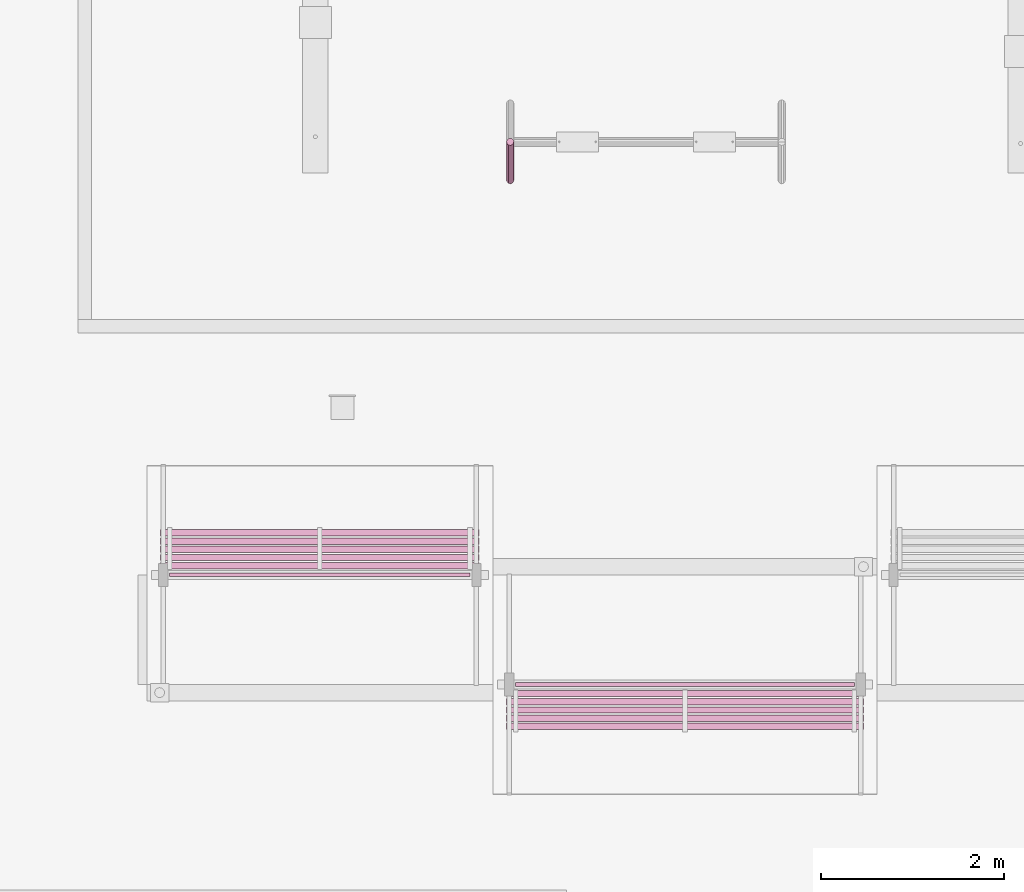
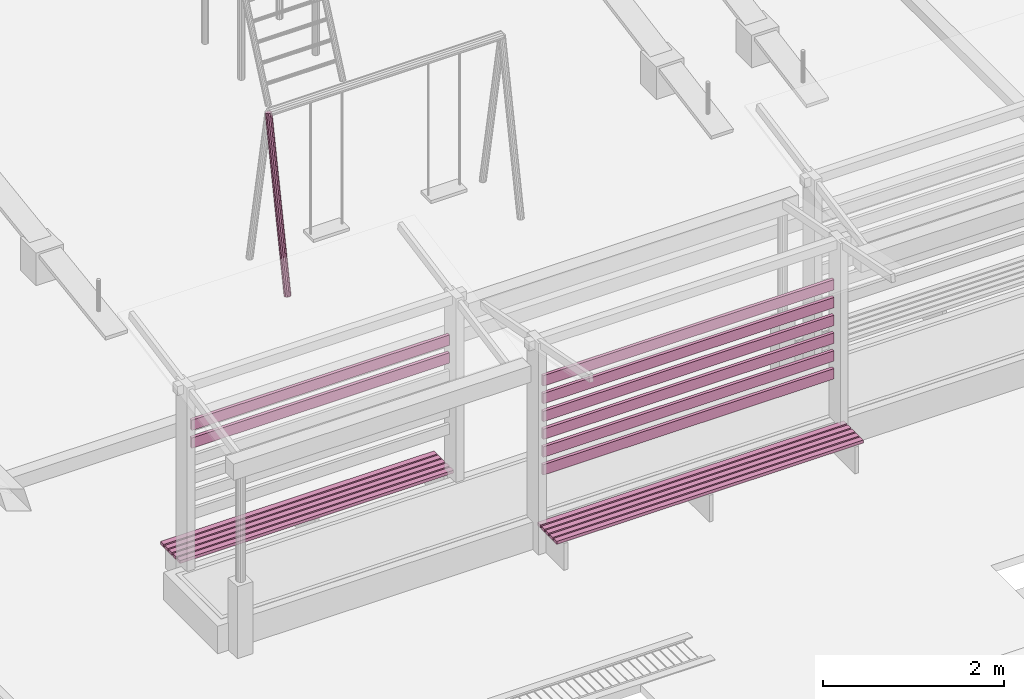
# One storey, part 136 of 151: 19 furnishings.
"""IFC2X3 building model written with IfcOpenShell, lengths in metres."""

from ifc_helpers import new_model, si_unit, origin, origin_with_axes, place, context, subcontext, project, spatial, faceted_brep, element, save


model = new_model("IFC2X3")

# Units and contexts
model_context = context("Model", 3, precision=1e-05, world=origin_with_axes())
body_context = subcontext(model_context, "Body", "Model", "MODEL_VIEW")
ifc_project = project(units=[si_unit("LENGTHUNIT", "METRE"), si_unit("AREAUNIT", "SQUARE_METRE"), si_unit("VOLUMEUNIT", "CUBIC_METRE"), si_unit("PLANEANGLEUNIT", "RADIAN")], contexts=[model_context])

# Site, building, storey
site_placement = place(None, origin_with_axes())
site = spatial("IfcSite", under=ifc_project, at=site_placement, Name="Predio Los Mangos - Morales, San Martín", CompositionType="ELEMENT")
building_placement = place(site_placement, origin())
building = spatial("IfcBuilding", under=site, at=building_placement, Name="Hogar de Refugio Temporal", CompositionType="ELEMENT")
storey_placement = place(building_placement, origin())
storey = spatial("IfcBuildingStorey", under=building, at=storey_placement, Name="NIVEL 1 (NPT +0.00)", CompositionType="ELEMENT", Elevation=0.0)

# Furnishings
furnishing_1_placement = place(storey_placement, origin())
element("IfcFurnishingElement", 1, at=furnishing_1_placement, inside=storey, Name="columpio_pata", ObjectType="Mobiliario exterior / juegos", context=body_context, shape_type="Brep", body=[
    faceted_brep([(32.885, 79.2847, 0.1374), (32.885, 79.7047, 2.3574), (32.865, 79.71, 2.3564), (32.865, 79.29, 0.1364), (32.8504, 79.7243, 2.3537), (32.8504, 79.3043, 0.1337), (32.845, 79.744, 2.35), (32.845, 79.324, 0.13), (32.8504, 79.7636, 2.3463), (32.8504, 79.3436, 0.1263), (32.865, 79.778, 2.3436), (32.865, 79.358, 0.1236), (32.885, 79.7833, 2.3426), (32.885, 79.3633, 0.1226), (32.905, 79.778, 2.3436), (32.905, 79.358, 0.1236), (32.9196, 79.7636, 2.3463), (32.9196, 79.3436, 0.1263), (32.925, 79.744, 2.35), (32.925, 79.324, 0.13), (32.9196, 79.7243, 2.3537), (32.9196, 79.3043, 0.1337), (32.905, 79.71, 2.3564), (32.905, 79.29, 0.1364)], [[[0, 1, 2, 3]], [[3, 2, 4, 5]], [[5, 4, 6, 7]], [[7, 6, 8, 9]], [[9, 8, 10, 11]], [[11, 10, 12, 13]], [[13, 12, 14, 15]], [[15, 14, 16, 17]], [[17, 16, 18, 19]], [[19, 18, 20, 21]], [[2, 1, 22, 20, 18, 16, 14, 12, 10, 8, 6, 4]], [[21, 20, 22, 23]], [[23, 22, 1, 0]], [[0, 3, 5, 7, 9, 11, 13, 15, 17, 19, 21, 23]]]),
])
furnishing_2_placement = place(storey_placement, origin())
element("IfcFurnishingElement", 2, at=furnishing_2_placement, inside=storey, Name="oc01_celosia", ObjectType="Mobiliario exterior / juegos", context=body_context, shape_type="Brep", body=[
    faceted_brep([(36.655, 73.82, 1.05), (36.655, 73.78, 1.05), (32.945, 73.78, 1.05), (32.945, 73.82, 1.05), (36.655, 73.82, 1.19), (32.945, 73.82, 1.19), (32.945, 73.78, 1.19), (36.655, 73.78, 1.19)], [[[0, 1, 2, 3]], [[4, 5, 6, 7]], [[0, 3, 5, 4]], [[3, 2, 6, 5]], [[2, 1, 7, 6]], [[1, 0, 4, 7]]]),
])
furnishing_3_placement = place(storey_placement, origin())
element("IfcFurnishingElement", 3, at=furnishing_3_placement, inside=storey, Name="oc01_celosia", ObjectType="Mobiliario exterior / juegos", context=body_context, shape_type="Brep", body=[
    faceted_brep([(36.655, 73.82, 1.29), (36.655, 73.78, 1.29), (32.945, 73.78, 1.29), (32.945, 73.82, 1.29), (36.655, 73.82, 1.43), (32.945, 73.82, 1.43), (32.945, 73.78, 1.43), (36.655, 73.78, 1.43)], [[[0, 1, 2, 3]], [[4, 5, 6, 7]], [[0, 3, 5, 4]], [[3, 2, 6, 5]], [[2, 1, 7, 6]], [[1, 0, 4, 7]]]),
])
furnishing_4_placement = place(storey_placement, origin())
element("IfcFurnishingElement", 4, at=furnishing_4_placement, inside=storey, Name="oc01_celosia", ObjectType="Mobiliario exterior / juegos", context=body_context, shape_type="Brep", body=[
    faceted_brep([(36.655, 73.82, 1.53), (36.655, 73.78, 1.53), (32.945, 73.78, 1.53), (32.945, 73.82, 1.53), (36.655, 73.82, 1.67), (32.945, 73.82, 1.67), (32.945, 73.78, 1.67), (36.655, 73.78, 1.67)], [[[0, 1, 2, 3]], [[4, 5, 6, 7]], [[0, 3, 5, 4]], [[3, 2, 6, 5]], [[2, 1, 7, 6]], [[1, 0, 4, 7]]]),
])
furnishing_5_placement = place(storey_placement, origin())
element("IfcFurnishingElement", 5, at=furnishing_5_placement, inside=storey, Name="oc01_celosia", ObjectType="Mobiliario exterior / juegos", context=body_context, shape_type="Brep", body=[
    faceted_brep([(36.655, 73.82, 1.77), (36.655, 73.78, 1.77), (32.945, 73.78, 1.77), (32.945, 73.82, 1.77), (36.655, 73.82, 1.91), (32.945, 73.82, 1.91), (32.945, 73.78, 1.91), (36.655, 73.78, 1.91)], [[[0, 1, 2, 3]], [[4, 5, 6, 7]], [[0, 3, 5, 4]], [[3, 2, 6, 5]], [[2, 1, 7, 6]], [[1, 0, 4, 7]]]),
])
furnishing_6_placement = place(storey_placement, origin())
element("IfcFurnishingElement", 6, at=furnishing_6_placement, inside=storey, Name="oc01_celosia", ObjectType="Mobiliario exterior / juegos", context=body_context, shape_type="Brep", body=[
    faceted_brep([(36.655, 73.82, 2.01), (36.655, 73.78, 2.01), (32.945, 73.78, 2.01), (32.945, 73.82, 2.01), (36.655, 73.82, 2.15), (32.945, 73.82, 2.15), (32.945, 73.78, 2.15), (36.655, 73.78, 2.15)], [[[0, 1, 2, 3]], [[4, 5, 6, 7]], [[0, 3, 5, 4]], [[3, 2, 6, 5]], [[2, 1, 7, 6]], [[1, 0, 4, 7]]]),
])
furnishing_7_placement = place(storey_placement, origin())
element("IfcFurnishingElement", 7, at=furnishing_7_placement, inside=storey, Name="oc01_celosia", ObjectType="Mobiliario exterior / juegos", context=body_context, shape_type="Brep", body=[
    faceted_brep([(36.655, 73.82, 2.25), (36.655, 73.78, 2.25), (32.945, 73.78, 2.25), (32.945, 73.82, 2.25), (36.655, 73.82, 2.39), (32.945, 73.82, 2.39), (32.945, 73.78, 2.39), (36.655, 73.78, 2.39)], [[[0, 1, 2, 3]], [[4, 5, 6, 7]], [[0, 3, 5, 4]], [[3, 2, 6, 5]], [[2, 1, 7, 6]], [[1, 0, 4, 7]]]),
])
furnishing_8_placement = place(storey_placement, origin())
element("IfcFurnishingElement", 8, at=furnishing_8_placement, inside=storey, Name="oc01_asiento", ObjectType="Mobiliario exterior / juegos", context=body_context, shape_type="Brep", body=[
    faceted_brep([(36.755, 73.735, 0.44), (36.755, 73.665, 0.44), (32.845, 73.665, 0.44), (32.845, 73.735, 0.44), (36.755, 73.735, 0.48), (32.845, 73.735, 0.48), (32.845, 73.665, 0.48), (36.755, 73.665, 0.48)], [[[0, 1, 2, 3]], [[4, 5, 6, 7]], [[0, 3, 5, 4]], [[3, 2, 6, 5]], [[2, 1, 7, 6]], [[1, 0, 4, 7]]]),
])
furnishing_9_placement = place(storey_placement, origin())
element("IfcFurnishingElement", 9, at=furnishing_9_placement, inside=storey, Name="oc01_asiento", ObjectType="Mobiliario exterior / juegos", context=body_context, shape_type="Brep", body=[
    faceted_brep([(36.755, 73.645, 0.44), (36.755, 73.575, 0.44), (32.845, 73.575, 0.44), (32.845, 73.645, 0.44), (36.755, 73.645, 0.48), (32.845, 73.645, 0.48), (32.845, 73.575, 0.48), (36.755, 73.575, 0.48)], [[[0, 1, 2, 3]], [[4, 5, 6, 7]], [[0, 3, 5, 4]], [[3, 2, 6, 5]], [[2, 1, 7, 6]], [[1, 0, 4, 7]]]),
])
furnishing_10_placement = place(storey_placement, origin())
element("IfcFurnishingElement", 10, at=furnishing_10_placement, inside=storey, Name="oc01_asiento", ObjectType="Mobiliario exterior / juegos", context=body_context, shape_type="Brep", body=[
    faceted_brep([(36.755, 73.555, 0.44), (36.755, 73.485, 0.44), (32.845, 73.485, 0.44), (32.845, 73.555, 0.44), (36.755, 73.555, 0.48), (32.845, 73.555, 0.48), (32.845, 73.485, 0.48), (36.755, 73.485, 0.48)], [[[0, 1, 2, 3]], [[4, 5, 6, 7]], [[0, 3, 5, 4]], [[3, 2, 6, 5]], [[2, 1, 7, 6]], [[1, 0, 4, 7]]]),
])
furnishing_11_placement = place(storey_placement, origin())
element("IfcFurnishingElement", 11, at=furnishing_11_placement, inside=storey, Name="oc01_asiento", ObjectType="Mobiliario exterior / juegos", context=body_context, shape_type="Brep", body=[
    faceted_brep([(36.755, 73.465, 0.44), (36.755, 73.395, 0.44), (32.845, 73.395, 0.44), (32.845, 73.465, 0.44), (36.755, 73.465, 0.48), (32.845, 73.465, 0.48), (32.845, 73.395, 0.48), (36.755, 73.395, 0.48)], [[[0, 1, 2, 3]], [[4, 5, 6, 7]], [[0, 3, 5, 4]], [[3, 2, 6, 5]], [[2, 1, 7, 6]], [[1, 0, 4, 7]]]),
])
furnishing_12_placement = place(storey_placement, origin())
element("IfcFurnishingElement", 12, at=furnishing_12_placement, inside=storey, Name="oc01_asiento", ObjectType="Mobiliario exterior / juegos", context=body_context, shape_type="Brep", body=[
    faceted_brep([(36.755, 73.375, 0.44), (36.755, 73.305, 0.44), (32.845, 73.305, 0.44), (32.845, 73.375, 0.44), (36.755, 73.375, 0.48), (32.845, 73.375, 0.48), (32.845, 73.305, 0.48), (36.755, 73.305, 0.48)], [[[0, 1, 2, 3]], [[4, 5, 6, 7]], [[0, 3, 5, 4]], [[3, 2, 6, 5]], [[2, 1, 7, 6]], [[1, 0, 4, 7]]]),
])
furnishing_13_placement = place(storey_placement, origin())
element("IfcFurnishingElement", 13, at=furnishing_13_placement, inside=storey, Name="oc01_celosia", ObjectType="Mobiliario exterior / juegos", context=body_context, shape_type="Brep", body=[
    faceted_brep([(32.445, 75.02, 2.01), (32.445, 74.98, 2.01), (29.155, 74.98, 2.01), (29.155, 75.02, 2.01), (32.445, 75.02, 2.15), (29.155, 75.02, 2.15), (29.155, 74.98, 2.15), (32.445, 74.98, 2.15)], [[[0, 1, 2, 3]], [[4, 5, 6, 7]], [[0, 3, 5, 4]], [[3, 2, 6, 5]], [[2, 1, 7, 6]], [[1, 0, 4, 7]]]),
])
furnishing_14_placement = place(storey_placement, origin())
element("IfcFurnishingElement", 14, at=furnishing_14_placement, inside=storey, Name="oc01_celosia", ObjectType="Mobiliario exterior / juegos", context=body_context, shape_type="Brep", body=[
    faceted_brep([(32.445, 75.02, 2.25), (32.445, 74.98, 2.25), (29.155, 74.98, 2.25), (29.155, 75.02, 2.25), (32.445, 75.02, 2.39), (29.155, 75.02, 2.39), (29.155, 74.98, 2.39), (32.445, 74.98, 2.39)], [[[0, 1, 2, 3]], [[4, 5, 6, 7]], [[0, 3, 5, 4]], [[3, 2, 6, 5]], [[2, 1, 7, 6]], [[1, 0, 4, 7]]]),
])
furnishing_15_placement = place(storey_placement, origin())
element("IfcFurnishingElement", 15, at=furnishing_15_placement, inside=storey, Name="oc01_asiento", ObjectType="Mobiliario exterior / juegos", context=body_context, shape_type="Brep", body=[
    faceted_brep([(32.545, 75.135, 0.44), (32.545, 75.065, 0.44), (29.055, 75.065, 0.44), (29.055, 75.135, 0.44), (32.545, 75.135, 0.48), (29.055, 75.135, 0.48), (29.055, 75.065, 0.48), (32.545, 75.065, 0.48)], [[[0, 1, 2, 3]], [[4, 5, 6, 7]], [[0, 3, 5, 4]], [[3, 2, 6, 5]], [[2, 1, 7, 6]], [[1, 0, 4, 7]]]),
])
furnishing_16_placement = place(storey_placement, origin())
element("IfcFurnishingElement", 16, at=furnishing_16_placement, inside=storey, Name="oc01_asiento", ObjectType="Mobiliario exterior / juegos", context=body_context, shape_type="Brep", body=[
    faceted_brep([(32.545, 75.225, 0.44), (32.545, 75.155, 0.44), (29.055, 75.155, 0.44), (29.055, 75.225, 0.44), (32.545, 75.225, 0.48), (29.055, 75.225, 0.48), (29.055, 75.155, 0.48), (32.545, 75.155, 0.48)], [[[0, 1, 2, 3]], [[4, 5, 6, 7]], [[0, 3, 5, 4]], [[3, 2, 6, 5]], [[2, 1, 7, 6]], [[1, 0, 4, 7]]]),
])
furnishing_17_placement = place(storey_placement, origin())
element("IfcFurnishingElement", 17, at=furnishing_17_placement, inside=storey, Name="oc01_asiento", ObjectType="Mobiliario exterior / juegos", context=body_context, shape_type="Brep", body=[
    faceted_brep([(32.545, 75.315, 0.44), (32.545, 75.245, 0.44), (29.055, 75.245, 0.44), (29.055, 75.315, 0.44), (32.545, 75.315, 0.48), (29.055, 75.315, 0.48), (29.055, 75.245, 0.48), (32.545, 75.245, 0.48)], [[[0, 1, 2, 3]], [[4, 5, 6, 7]], [[0, 3, 5, 4]], [[3, 2, 6, 5]], [[2, 1, 7, 6]], [[1, 0, 4, 7]]]),
])
furnishing_18_placement = place(storey_placement, origin())
element("IfcFurnishingElement", 18, at=furnishing_18_placement, inside=storey, Name="oc01_asiento", ObjectType="Mobiliario exterior / juegos", context=body_context, shape_type="Brep", body=[
    faceted_brep([(32.545, 75.405, 0.44), (32.545, 75.335, 0.44), (29.055, 75.335, 0.44), (29.055, 75.405, 0.44), (32.545, 75.405, 0.48), (29.055, 75.405, 0.48), (29.055, 75.335, 0.48), (32.545, 75.335, 0.48)], [[[0, 1, 2, 3]], [[4, 5, 6, 7]], [[0, 3, 5, 4]], [[3, 2, 6, 5]], [[2, 1, 7, 6]], [[1, 0, 4, 7]]]),
])
furnishing_19_placement = place(storey_placement, origin())
element("IfcFurnishingElement", 19, at=furnishing_19_placement, inside=storey, Name="oc01_asiento", ObjectType="Mobiliario exterior / juegos", context=body_context, shape_type="Brep", body=[
    faceted_brep([(32.545, 75.495, 0.44), (32.545, 75.425, 0.44), (29.055, 75.425, 0.44), (29.055, 75.495, 0.44), (32.545, 75.495, 0.48), (29.055, 75.495, 0.48), (29.055, 75.425, 0.48), (32.545, 75.425, 0.48)], [[[0, 1, 2, 3]], [[4, 5, 6, 7]], [[0, 3, 5, 4]], [[3, 2, 6, 5]], [[2, 1, 7, 6]], [[1, 0, 4, 7]]]),
])

save(model, "model.ifc")
